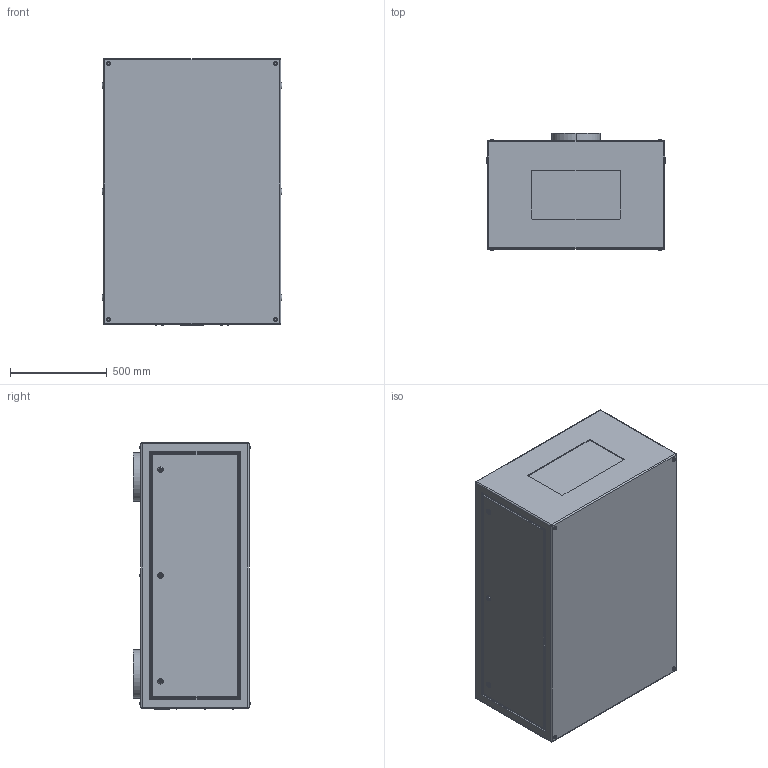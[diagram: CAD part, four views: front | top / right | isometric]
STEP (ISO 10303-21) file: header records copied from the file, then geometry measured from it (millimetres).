
FILE_DESCRIPTION (( 'STEP AP214' ), '1' );
FILE_NAME ('Tacit 56.310.L R08.STEP', '2022-09-11T22:37:10', ( '' ), ( '' ), 'SwSTEP 2.0', 'SolidWorks 2020', '' );
FILE_SCHEMA (( 'AUTOMOTIVE_DESIGN' ));
Length unit declared in the file: inch
Products named in the file (1): Tacit 56.310.L R08
Bounding box: 927.1 x 604.16 x 1376.68 mm (x, y, z)
Volume: 699559639.5 mm3; surface area: 5409286.3 mm2
Topology: 1 solids, 7 shells, 401 faces, 892 edges, 560 vertices
Faces by surface type: plane 177, cylinder 168, torus 48, sphere 8
Entity records: 15043 total; most frequent: CARTESIAN_POINT 2414, DIRECTION 1972, ORIENTED_EDGE 1768, EDGE_CURVE 884, AXIS2_PLACEMENT_3D 782, VERTEX_POINT 560, EDGE_LOOP 464, LINE 408
